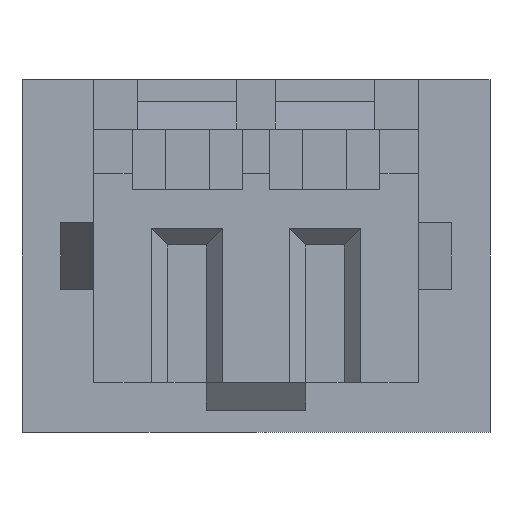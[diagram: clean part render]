
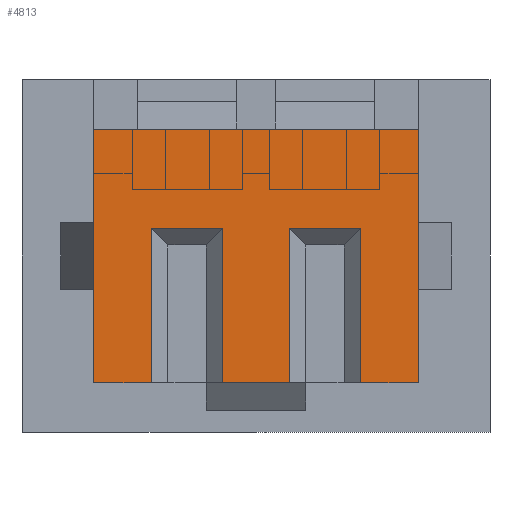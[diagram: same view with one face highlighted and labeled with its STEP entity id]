
A CAD part, front view. The second image highlights one B-rep face of the part: STEP entity #4813.
In plain terms, the highlighted planar face has unit normal (0, -1, 0).
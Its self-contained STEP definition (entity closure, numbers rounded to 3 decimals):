
#961=DIRECTION('',(0.,0.,1.));
#962=VECTOR('',#961,2.3);
#963=CARTESIAN_POINT('',(1.475,-1.975,-1.15));
#964=LINE('',#963,#962);
#1021=DIRECTION('',(0.,0.,1.));
#1022=VECTOR('',#1021,1.4);
#1023=CARTESIAN_POINT('',(0.3,-1.975,-1.15));
#1024=LINE('',#1023,#1022);
#1033=DIRECTION('',(1.,0.,0.));
#1034=VECTOR('',#1033,0.6);
#1035=CARTESIAN_POINT('',(-0.3,-1.975,-1.15));
#1036=LINE('',#1035,#1034);
#1037=DIRECTION('',(1.,0.,0.));
#1038=VECTOR('',#1037,0.525);
#1039=CARTESIAN_POINT('',(-1.475,-1.975,-1.15));
#1040=LINE('',#1039,#1038);
#1041=DIRECTION('',(0.,0.,1.));
#1042=VECTOR('',#1041,2.3);
#1043=CARTESIAN_POINT('',(-1.475,-1.975,-1.15));
#1044=LINE('',#1043,#1042);
#1045=DIRECTION('',(1.,0.,0.));
#1046=VECTOR('',#1045,2.95);
#1047=CARTESIAN_POINT('',(-1.475,-1.975,1.15));
#1048=LINE('',#1047,#1046);
#1049=DIRECTION('',(1.,0.,0.));
#1050=VECTOR('',#1049,0.525);
#1051=CARTESIAN_POINT('',(0.95,-1.975,-1.15));
#1052=LINE('',#1051,#1050);
#1053=DIRECTION('',(0.,0.,1.));
#1054=VECTOR('',#1053,1.4);
#1055=CARTESIAN_POINT('',(0.95,-1.975,-1.15));
#1056=LINE('',#1055,#1054);
#1069=DIRECTION('',(-1.,0.,0.));
#1070=VECTOR('',#1069,0.65);
#1071=CARTESIAN_POINT('',(0.95,-1.975,0.25));
#1072=LINE('',#1071,#1070);
#1081=DIRECTION('',(0.,0.,1.));
#1082=VECTOR('',#1081,1.4);
#1083=CARTESIAN_POINT('',(-0.3,-1.975,-1.15));
#1084=LINE('',#1083,#1082);
#1097=DIRECTION('',(0.,0.,1.));
#1098=VECTOR('',#1097,1.4);
#1099=CARTESIAN_POINT('',(-0.95,-1.975,-1.15));
#1100=LINE('',#1099,#1098);
#1109=DIRECTION('',(-1.,0.,0.));
#1110=VECTOR('',#1109,0.65);
#1111=CARTESIAN_POINT('',(-0.3,-1.975,0.25));
#1112=LINE('',#1111,#1110);
#2562=CARTESIAN_POINT('',(-1.475,-1.975,-1.15));
#2564=VERTEX_POINT('',#2562);
#2565=CARTESIAN_POINT('',(-1.475,-1.975,1.15));
#2567=VERTEX_POINT('',#2565);
#2575=CARTESIAN_POINT('',(1.475,-1.975,1.15));
#2576=VERTEX_POINT('',#2575);
#2577=CARTESIAN_POINT('',(1.475,-1.975,-1.15));
#2579=VERTEX_POINT('',#2577);
#2721=CARTESIAN_POINT('',(-0.95,-1.975,-1.15));
#2722=CARTESIAN_POINT('',(-0.95,-1.975,0.25));
#2723=VERTEX_POINT('',#2721);
#2724=VERTEX_POINT('',#2722);
#2729=CARTESIAN_POINT('',(-0.3,-1.975,0.25));
#2730=VERTEX_POINT('',#2729);
#2733=CARTESIAN_POINT('',(-0.3,-1.975,-1.15));
#2734=VERTEX_POINT('',#2733);
#2873=CARTESIAN_POINT('',(0.3,-1.975,-1.15));
#2874=CARTESIAN_POINT('',(0.3,-1.975,0.25));
#2875=VERTEX_POINT('',#2873);
#2876=VERTEX_POINT('',#2874);
#2879=CARTESIAN_POINT('',(0.95,-1.975,0.25));
#2880=VERTEX_POINT('',#2879);
#2883=CARTESIAN_POINT('',(0.95,-1.975,-1.15));
#2884=VERTEX_POINT('',#2883);
#4787=CARTESIAN_POINT('',(-1.475,-1.975,-1.6));
#4788=DIRECTION('',(0.,-1.,0.));
#4789=DIRECTION('',(1.,0.,0.));
#4790=AXIS2_PLACEMENT_3D('',#4787,#4788,#4789);
#4791=PLANE('',#4790);
#4793=ORIENTED_EDGE('',*,*,#4792,.T.);
#4795=ORIENTED_EDGE('',*,*,#4794,.T.);
#4796=ORIENTED_EDGE('',*,*,#4778,.F.);
#4797=ORIENTED_EDGE('',*,*,#4741,.F.);
#4799=ORIENTED_EDGE('',*,*,#4798,.T.);
#4801=ORIENTED_EDGE('',*,*,#4800,.T.);
#4803=ORIENTED_EDGE('',*,*,#4802,.F.);
#4804=ORIENTED_EDGE('',*,*,#4733,.F.);
#4806=ORIENTED_EDGE('',*,*,#4805,.T.);
#4808=ORIENTED_EDGE('',*,*,#4807,.T.);
#4809=ORIENTED_EDGE('',*,*,#4697,.F.);
#4810=ORIENTED_EDGE('',*,*,#4727,.F.);
#4811=EDGE_LOOP('',(#4793,#4795,#4796,#4797,#4799,#4801,#4803,#4804,#4806,#4808,
#4809,#4810));
#4812=FACE_OUTER_BOUND('',#4811,.F.);
#4813=ADVANCED_FACE('',(#4812),#4791,.T.);
#4697=EDGE_CURVE('',#2579,#2576,#964,.T.);
#4727=EDGE_CURVE('',#2884,#2579,#1052,.T.);
#4733=EDGE_CURVE('',#2564,#2723,#1040,.T.);
#4741=EDGE_CURVE('',#2734,#2875,#1036,.T.);
#4778=EDGE_CURVE('',#2875,#2876,#1024,.T.);
#4792=EDGE_CURVE('',#2884,#2880,#1056,.T.);
#4794=EDGE_CURVE('',#2880,#2876,#1072,.T.);
#4798=EDGE_CURVE('',#2734,#2730,#1084,.T.);
#4800=EDGE_CURVE('',#2730,#2724,#1112,.T.);
#4802=EDGE_CURVE('',#2723,#2724,#1100,.T.);
#4805=EDGE_CURVE('',#2564,#2567,#1044,.T.);
#4807=EDGE_CURVE('',#2567,#2576,#1048,.T.);
